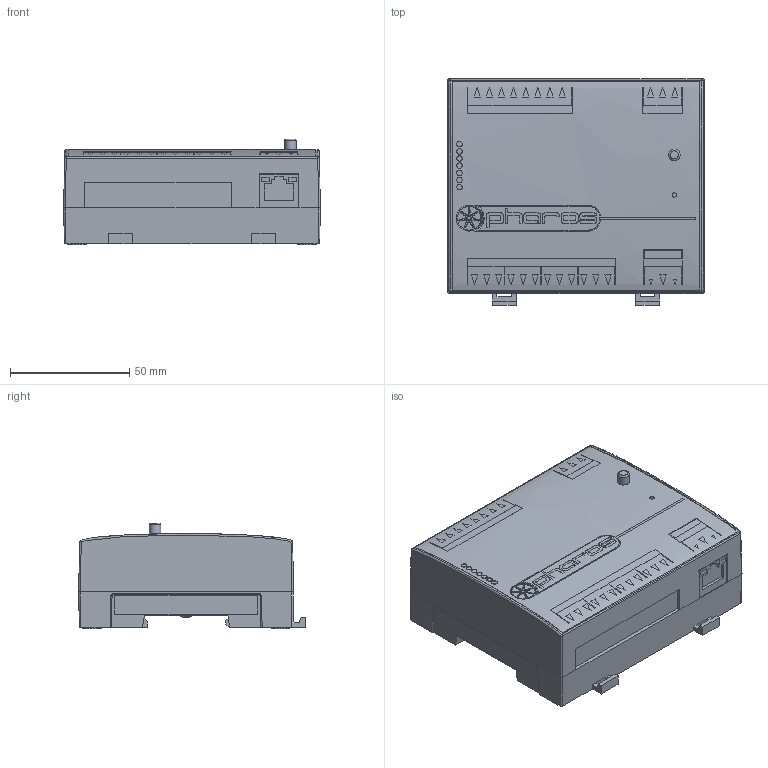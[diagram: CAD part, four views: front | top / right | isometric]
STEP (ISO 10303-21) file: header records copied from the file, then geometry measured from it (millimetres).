
FILE_DESCRIPTION(('STEP AP242 Edition 2','STEP AP242 Edition 2''CAx-IF Rec.Pracs.---Representation and Presentation of Product Manufacturing Information (PMI)---4.0---2014-10-13','STEP AP242 Edition 2''CAx-IF Rec.Pracs.---Representation and Presentation of Product Manufacturing Information (PMI)---4.0---2014-10-13''CAx-IF Rec.Pracs.---3D Tessellated Geometry---0.4---2014-09-14','STEP AP242 Edition 2''CAx-IF Rec.Pracs.---Representation and Presentation of Product Manufacturing Information (PMI)---4.0---2014-10-13''CAx-IF Rec.Pracs.---3D Tessellated Geometry---0.4---2014-09-14''2;1','STEP AP242 Edition 2''CAx-IF Rec.Pracs.---Representation and Presentation of Product Manufacturing Information (PMI)---4.0---2014-10-13''CAx-IF Rec.Pracs.---3D Tessellated Geometry---0.4---2014-09-14''2;1''CAx-IF Rec.Pracs.---User Defined Attributes---1.5---2016-08-15'),'2;1');
FILE_NAME('/vol/tmp/translate-16132789729379394293/DIN_abs.step','2026-03-24T21:56:49',(''),(''),'ST-DEVELOPER v20','ONSHAPE BY PTC INC, 1.212',' ');
FILE_SCHEMA(('AP242_MANAGED_MODEL_BASED_3D_ENGINEERING_MIM_LF { 1 0 10303 442 3 1 4 }'));
Length unit declared in the file: metre
Products named in the file (1): Switch
Bounding box: 107.5 x 94.94 x 44.34 mm (x, y, z)
Volume: 348524.4 mm3; surface area: 38310.5 mm2
Topology: 1 solids, 1 shells, 1149 faces, 3013 edges, 1993 vertices
Faces by surface type: plane 926, cylinder 172, bspline 47, sphere 4
Full cylindrical faces by diameter (mm): 0.544 x7, 0.705 x7, 0.866 x7, 0.99 x7, 1.485 x1, 1.8 x1, 2.3 x7, 4.8 x1, 7.8 x4, 9.9 x1, 10.782 x1
Entity records: 41971 total; most frequent: CARTESIAN_POINT 13381, ORIENTED_EDGE 5904, DIRECTION 4931, EDGE_CURVE 2952, LINE 2471, VECTOR 2471, VERTEX_POINT 1983, EDGE_LOOP 1331
